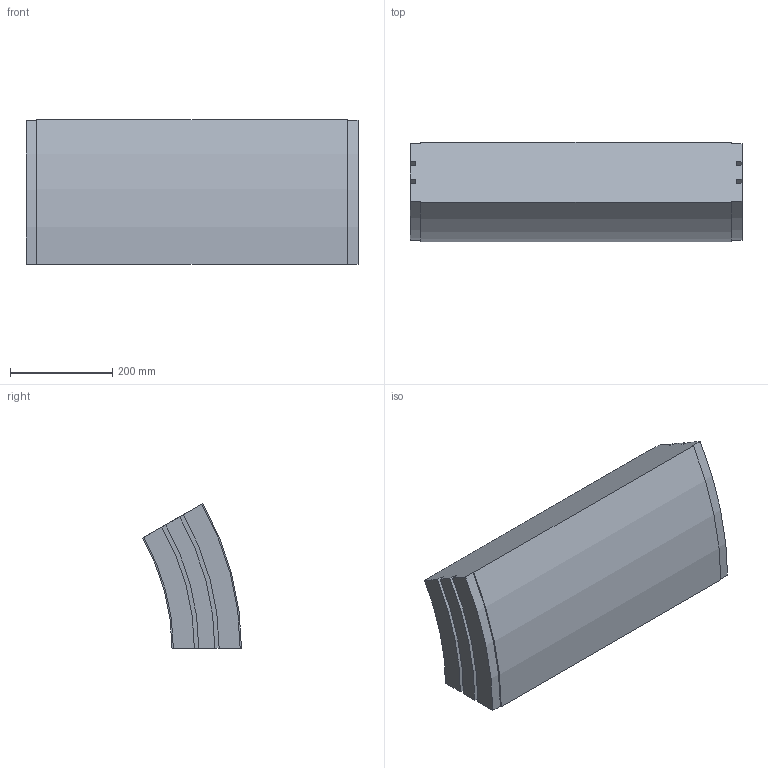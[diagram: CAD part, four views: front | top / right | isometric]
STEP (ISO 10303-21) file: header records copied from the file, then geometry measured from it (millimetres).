
FILE_DESCRIPTION (( 'STEP AP214' ), '1' );
FILE_NAME ('02.150V30.650.N FS-650-MTC-150 Bocht verticaal 30°.STEP', '2013-03-29T13:25:02', ( 'Gebruiker' ), ( '' ), 'SwSTEP 2.0', 'SolidWorks 2012', '' );
FILE_SCHEMA (( 'AUTOMOTIVE_DESIGN' ));
Length unit declared in the file: millimetre
Products named in the file (1): 02.150V30.650.N FS-650-MTC-150 Bocht verticaal 30°
Bounding box: 650.5 x 193.88 x 284 mm (x, y, z)
Volume: 23007977.4 mm3; surface area: 610616.8 mm2
Topology: 1 solids, 1 shells, 30 faces, 84 edges, 56 vertices
Faces by surface type: plane 16, cylinder 14
Entity records: 1010 total; most frequent: DIRECTION 174, CARTESIAN_POINT 171, ORIENTED_EDGE 168, EDGE_CURVE 84, AXIS2_PLACEMENT_3D 59, VERTEX_POINT 56, VECTOR 56, LINE 56
